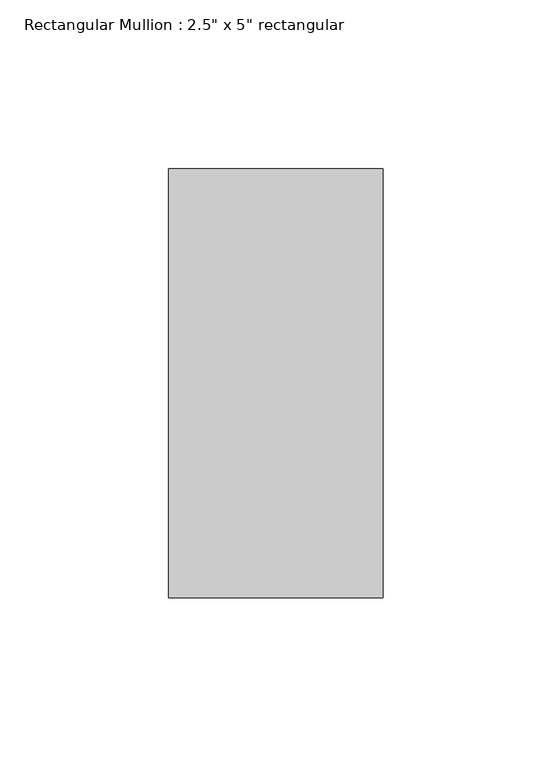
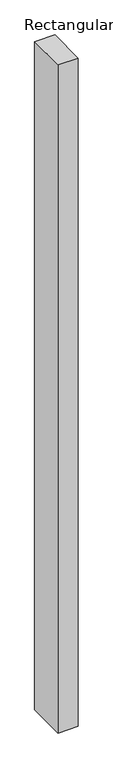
"""IFC4 building model written with IfcOpenShell, lengths in millimetres: member geometry."""

from ifc_helpers import new_model, si_unit, frame, origin, place, context, project, spatial, polyline, outline, extrude, source, transform, mapped, element, save


def member_4285daeb(model_context):
    return source(origin(), model_context, "Body", "SweptSolid", [
        extrude(outline(polyline([(0.0, 63.5), (0.0, -63.5), (-63.5, -63.5), (-63.5, 63.5), (0.0, 63.5)])), frame((0.0, 0.0, -2228.85), z_axis=(0.0, 0.0, 1.0), x_axis=(1.0, 0.0, 0.0)), (0.0, 0.0, 1.0), 2228.85),
    ])


if __name__ == "__main__":
    model = new_model("IFC4")
    model_context = context("Model", 3, world=origin())
    ifc_project = project(units=[si_unit("LENGTHUNIT", "METRE", prefix="MILLI")], contexts=[model_context])
    site = spatial("IfcSite", under=ifc_project)
    building = spatial("IfcBuilding", under=site)
    placement = place(None, origin())
    member_shape = member_4285daeb(model_context)
    element("IfcMember", 1, ObjectType="Rectangular Mullion : 2.5\" x 5\" rectangular", at=placement, inside=building, context=model_context, shape_type="MappedRepresentation", body=[
        mapped(member_shape, transform((0.0, 0.0, 0.0), x_axis=(1.0, 0.0, 0.0), y_axis=(0.0, 1.0, 0.0), z_axis=(0.0, 0.0, 1.0))),
    ])
    save(model, "model.ifc")
